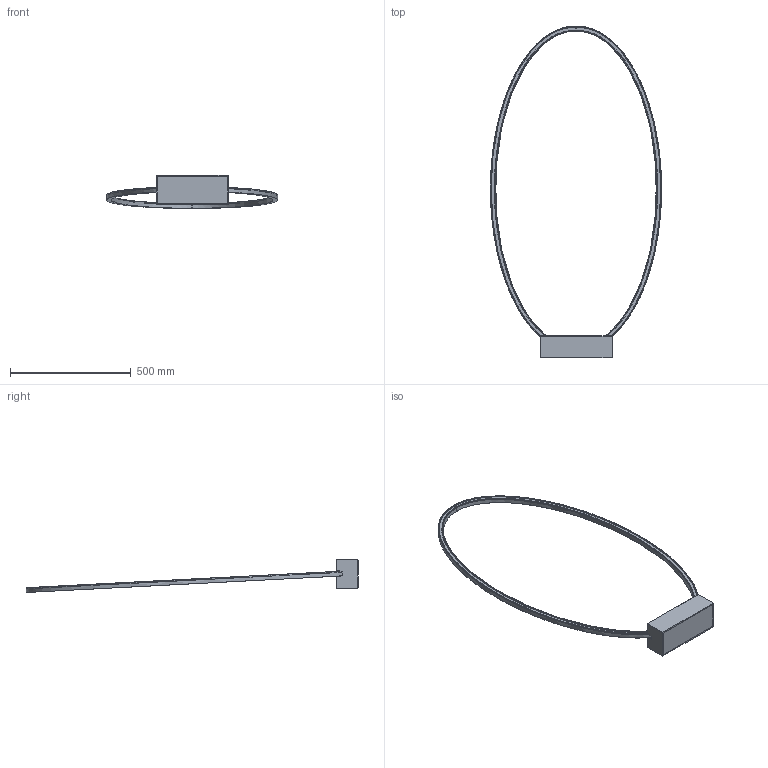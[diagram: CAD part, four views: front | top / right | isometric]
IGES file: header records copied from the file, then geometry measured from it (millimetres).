
Start section: SolidWorks IGES file using analytic representation for surfaces
Global section: file name: C:\Users\tungari.NEMOLIGHTING\Desktop\15_02\FLOOR\3D_ELLISSE_FLOOR\DEFEATURE_3D_ELLISSE_FLOOR\3D_ELLISSE_FLOOR.IGS; native system: SolidWorks 2016; preprocessor: SolidWorks 2016; author: tungari; date: 180219.125653; units: millimetre
Bounding box: 709 x 1374.92 x 136.75 mm (x, y, z)
Surface area: 574013.4 mm2 (no closed solid volume)
Topology: 0 solids, 0 shells, 427 faces, 3805 edges, 3805 vertices
Faces by surface type: revolution 239, bspline 188
